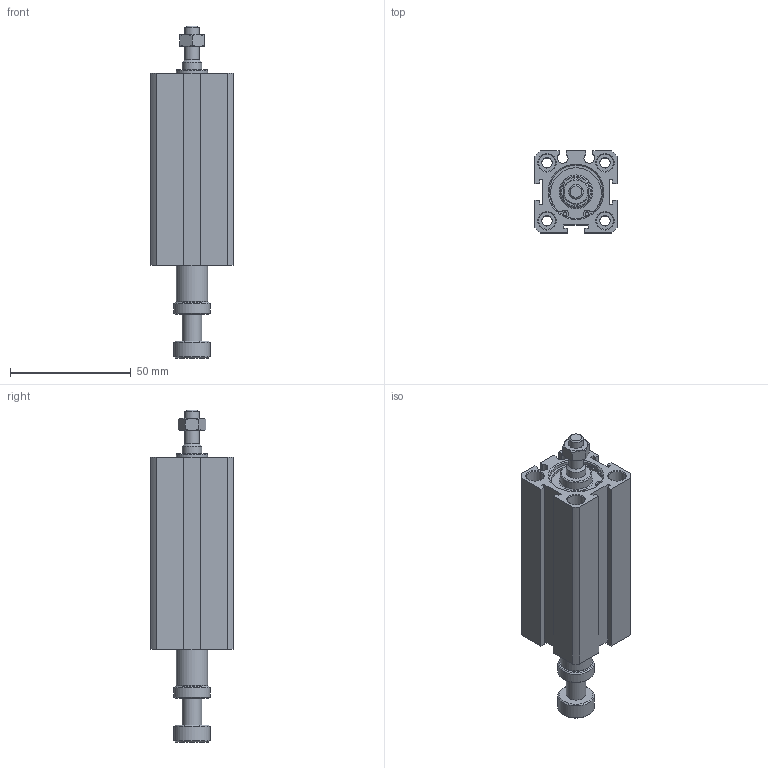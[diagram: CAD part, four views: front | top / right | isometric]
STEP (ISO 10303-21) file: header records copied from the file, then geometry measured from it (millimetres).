
FILE_DESCRIPTION((''),'2;1');
FILE_NAME('I:\3D電子目錄\氣缸\JDAR\JDAR-B\JDAR20-B\JDAR20x60-B.stp','2007-03-14T13:17:43',('662F206'),(''),'Autodesk Inventor 11','Autodesk Inventor 11','');
FILE_SCHEMA(('AUTOMOTIVE_DESIGN { 1 0 10303 214 1 1 1 1 }'));
Length unit declared in the file: millimetre
Products named in the file (3): JDAR20-B; R 形環 23
Assembly tree (3 placements, depth 2):
  JDAR20-B
    JDAR20-B
    R 形環 23  x2
Bounding box: 34 x 34 x 137.3 mm (x, y, z)
Volume: 80355.8 mm3; surface area: 25694.9 mm2
Topology: 3 solids, 3 shells, 152 faces, 341 edges, 221 vertices
Faces by surface type: plane 74, cylinder 50, cone 20, bspline 6, torus 2
Full cylindrical faces by diameter (mm): 1.5 x6, 4.3 x4, 6 x2, 7 x8, 8 x2, 13 x2, 15 x2, 22 x4, 23.2 x2
Entity records: 3749 total; most frequent: CARTESIAN_POINT 742, DIRECTION 628, ORIENTED_EDGE 498, AXIS2_PLACEMENT_3D 251, EDGE_CURVE 249, EDGE_LOOP 234, VERTEX_POINT 195, FACE_OUTER_BOUND 140
